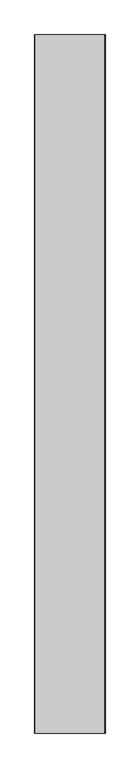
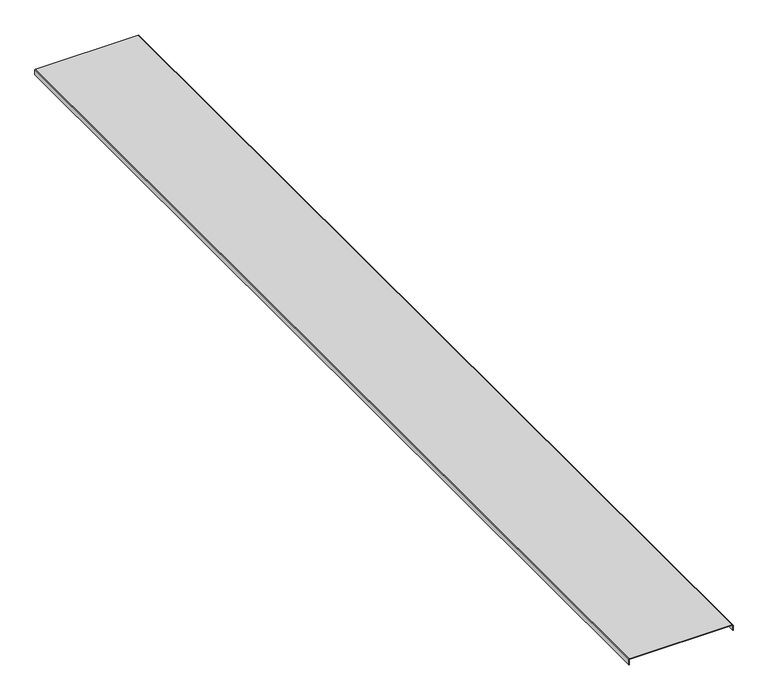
"""IFC4 building model written with IfcOpenShell, lengths in millimetres: proxy geometry, Cable_Tray_Cover_CT_Basorcanal : Basorcanal CT 100X300 (cover)."""

from ifc_helpers import new_model, si_unit, point, frame, frame_2d, origin, place, context, project, spatial, polyline, circle_curve, trimmed, segment, composite_curve, outline, extrude, source, transform, mapped, element, save


def generic_models_42cd256a(model_context):
    return source(origin(), model_context, "Body", "SweptSolid", [
        extrude(outline(composite_curve([segment(trimmed(circle_curve(frame_2d((-1.0, -149.0)), 1.0), [point((-1.0, -150.0))], [point((0.0, -149.0))], True, "CARTESIAN"), True, "CONTINUOUS"), segment(polyline([(0.0, -149.0), (0.0, 149.0)]), True, "CONTINUOUS"), segment(trimmed(circle_curve(frame_2d((-1.0, 149.0)), 1.0), [point((0.0, 149.0))], [point((-1.0, 150.0))], True, "CARTESIAN"), True, "CONTINUOUS"), segment(polyline([(-1.0, 150.0), (-16.0, 150.0), (-16.0, 151.0), (-1.0, 151.0)]), True, "CONTINUOUS"), segment(trimmed(circle_curve(frame_2d((-1.0, 149.0)), 2.0), [point((-1.0, 151.0))], [point((1.0, 149.0))], False, "CARTESIAN"), True, "CONTINUOUS"), segment(polyline([(1.0, 149.0), (1.0, -149.0)]), True, "CONTINUOUS"), segment(trimmed(circle_curve(frame_2d((-1.0, -149.0)), 2.0), [point((1.0, -149.0))], [point((-1.0, -151.0))], False, "CARTESIAN"), True, "CONTINUOUS"), segment(polyline([(-1.0, -151.0), (-16.0, -151.0), (-16.0, -150.0), (-1.0, -150.0)]), True, "CONTINUOUS")], self_intersect=False)), frame((0.0, 0.0, 0.0), z_axis=(0.0, 1.0, 0.0), x_axis=(0.0, 0.0, 1.0)), (0.0, 0.0, 1.0), 2985.0),
    ])


if __name__ == "__main__":
    model = new_model("IFC4")
    model_context = context("Model", 3, world=origin())
    ifc_project = project(units=[si_unit("LENGTHUNIT", "METRE", prefix="MILLI")], contexts=[model_context])
    site = spatial("IfcSite", under=ifc_project)
    building = spatial("IfcBuilding", under=site)
    placement = place(None, origin())
    generic_models_shape = generic_models_42cd256a(model_context)
    element("IfcBuildingElementProxy", 1, Name="Cable_Tray_Cover_CT_Basorcanal : Basorcanal CT 100X300 (cover)", ObjectType="Cable_Tray_Cover_CT_Basorcanal : Basorcanal CT 100X300 (cover)", at=placement, inside=building, context=model_context, shape_type="MappedRepresentation", body=[
        mapped(generic_models_shape, transform((0.0, 0.0, 0.0), x_axis=(1.0, 0.0, 0.0), y_axis=(0.0, 1.0, 0.0), z_axis=(0.0, 0.0, 1.0))),
    ])
    save(model, "model.ifc")
